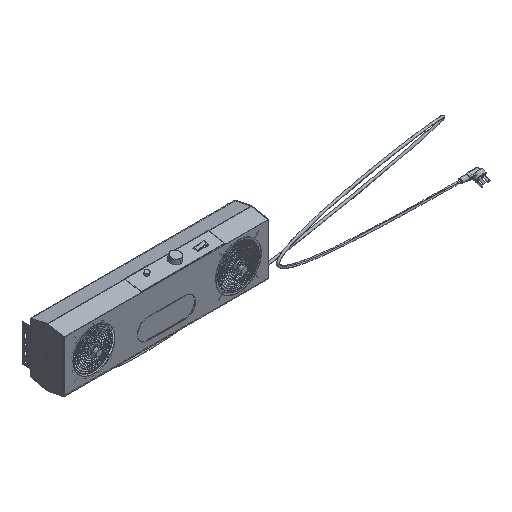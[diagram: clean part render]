
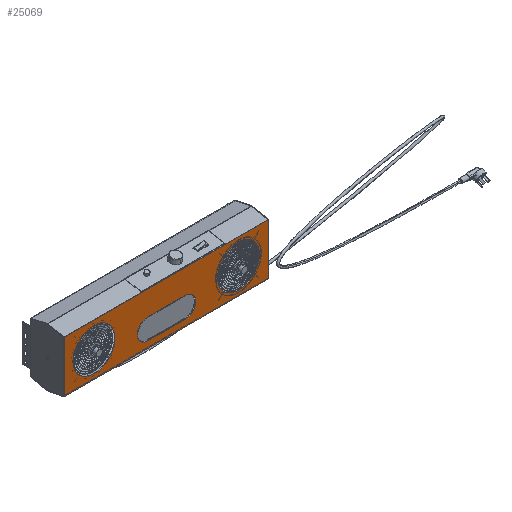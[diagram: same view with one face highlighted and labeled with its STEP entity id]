
A CAD part, isometric view. The second image highlights one B-rep face of the part: STEP entity #25069.
In plain terms, the highlighted planar face has unit normal (0, -1, 0).
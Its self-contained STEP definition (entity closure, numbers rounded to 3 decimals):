
#10 = EDGE_LOOP ( 'NONE', ( #22962, #40072, #32488, #30 ) ) ;
#30 = ORIENTED_EDGE ( 'NONE', *, *, #2239, .T. ) ;
#403 = ORIENTED_EDGE ( 'NONE', *, *, #33871, .F. ) ;
#567 = VECTOR ( 'NONE', #9184, 1000. ) ;
#695 = VERTEX_POINT ( 'NONE', #19723 ) ;
#1217 = DIRECTION ( 'NONE',  ( 0., 0., 1. ) ) ;
#2239 = EDGE_CURVE ( 'NONE', #16410, #695, #34054, .T. ) ;
#2543 = CARTESIAN_POINT ( 'NONE',  ( 246.4, -123., -64.933 ) ) ;
#2811 = ORIENTED_EDGE ( 'NONE', *, *, #12344, .F. ) ;
#3566 = CARTESIAN_POINT ( 'NONE',  ( 88.5, -123., -69.633 ) ) ;
#3828 = LINE ( 'NONE', #22988, #4284 ) ;
#3976 = FACE_OUTER_BOUND ( 'NONE', #10, .T. ) ;
#4284 = VECTOR ( 'NONE', #33185, 1000. ) ;
#4382 = VERTEX_POINT ( 'NONE', #5648 ) ;
#4910 = CARTESIAN_POINT ( 'NONE',  ( 600.3, -123., 66.867 ) ) ;
#5069 = CARTESIAN_POINT ( 'NONE',  ( 88.5, -123., 52.367 ) ) ;
#5100 = CIRCLE ( 'NONE', #6381, 61. ) ;
#5358 = CARTESIAN_POINT ( 'NONE',  ( 600.3, -123., 66.867 ) ) ;
#5648 = CARTESIAN_POINT ( 'NONE',  ( 246.4, -123., -5.333 ) ) ;
#5859 = AXIS2_PLACEMENT_3D ( 'NONE', #11636, #23801, #37383 ) ;
#6381 = AXIS2_PLACEMENT_3D ( 'NONE', #41745, #21759, #22613 ) ;
#6512 = DIRECTION ( 'NONE',  ( 0., 0., -1. ) ) ;
#7800 = PLANE ( 'NONE',  #17009 ) ;
#9184 = DIRECTION ( 'NONE',  ( 0., 0., -1. ) ) ;
#9440 = VERTEX_POINT ( 'NONE', #14292 ) ;
#9610 = CARTESIAN_POINT ( 'NONE',  ( 1.3, -123., 66.867 ) ) ;
#9660 = EDGE_CURVE ( 'NONE', #24477, #4382, #3828, .T. ) ;
#10180 = ORIENTED_EDGE ( 'NONE', *, *, #40688, .T. ) ;
#10506 = VECTOR ( 'NONE', #21276, 1000. ) ;
#10953 = DIRECTION ( 'NONE',  ( 0., -1., 0. ) ) ;
#11032 = CARTESIAN_POINT ( 'NONE',  ( 246.4, -123., -64.933 ) ) ;
#11252 = VERTEX_POINT ( 'NONE', #2543 ) ;
#11596 = EDGE_CURVE ( 'NONE', #11252, #35256, #17425, .T. ) ;
#11636 = CARTESIAN_POINT ( 'NONE',  ( 513.1, -123., -8.633 ) ) ;
#12344 = EDGE_CURVE ( 'NONE', #35256, #24477, #15299, .T. ) ;
#12563 = CIRCLE ( 'NONE', #28214, 29.8 ) ;
#12796 = LINE ( 'NONE', #9610, #33640 ) ;
#12804 = DIRECTION ( 'NONE',  ( 0., 0., 1. ) ) ;
#12822 = CARTESIAN_POINT ( 'NONE',  ( 513.1, -123., 52.367 ) ) ;
#12887 = EDGE_LOOP ( 'NONE', ( #13234, #403, #26106, #2811 ) ) ;
#13234 = ORIENTED_EDGE ( 'NONE', *, *, #11596, .F. ) ;
#13877 = CIRCLE ( 'NONE', #21328, 61. ) ;
#14292 = CARTESIAN_POINT ( 'NONE',  ( 1.3, -123., -84.133 ) ) ;
#15299 = CIRCLE ( 'NONE', #29591, 29.8 ) ;
#16035 = CIRCLE ( 'NONE', #5859, 61. ) ;
#16122 = FACE_BOUND ( 'NONE', #12887, .T. ) ;
#16266 = CARTESIAN_POINT ( 'NONE',  ( 600.3, -123., -84.133 ) ) ;
#16298 = DIRECTION ( 'NONE',  ( 0., 1., 0. ) ) ;
#16410 = VERTEX_POINT ( 'NONE', #35355 ) ;
#17009 = AXIS2_PLACEMENT_3D ( 'NONE', #39922, #29944, #1217 ) ;
#17425 = LINE ( 'NONE', #11032, #27419 ) ;
#17435 = ORIENTED_EDGE ( 'NONE', *, *, #31734, .T. ) ;
#17703 = EDGE_CURVE ( 'NONE', #21353, #21018, #34026, .T. ) ;
#18241 = VECTOR ( 'NONE', #19141, 1000. ) ;
#19141 = DIRECTION ( 'NONE',  ( -1., 0., 0. ) ) ;
#19723 = CARTESIAN_POINT ( 'NONE',  ( 1.3, -123., 66.867 ) ) ;
#20247 = VERTEX_POINT ( 'NONE', #5069 ) ;
#20660 = EDGE_LOOP ( 'NONE', ( #10180, #17435 ) ) ;
#21018 = VERTEX_POINT ( 'NONE', #12822 ) ;
#21276 = DIRECTION ( 'NONE',  ( -1., 0., 0. ) ) ;
#21328 = AXIS2_PLACEMENT_3D ( 'NONE', #35661, #16298, #6512 ) ;
#21353 = VERTEX_POINT ( 'NONE', #24709 ) ;
#21507 = VERTEX_POINT ( 'NONE', #3566 ) ;
#21669 = ORIENTED_EDGE ( 'NONE', *, *, #34722, .T. ) ;
#21759 = DIRECTION ( 'NONE',  ( 0., 1., 0. ) ) ;
#22000 = CARTESIAN_POINT ( 'NONE',  ( 356.8, -123., -64.933 ) ) ;
#22613 = DIRECTION ( 'NONE',  ( 0., 0., -1. ) ) ;
#22962 = ORIENTED_EDGE ( 'NONE', *, *, #33934, .T. ) ;
#22988 = CARTESIAN_POINT ( 'NONE',  ( 246.4, -123., -5.333 ) ) ;
#23040 = DIRECTION ( 'NONE',  ( 0., -1., 0. ) ) ;
#23529 = DIRECTION ( 'NONE',  ( 0., 0., -1. ) ) ;
#23618 = DIRECTION ( 'NONE',  ( 1., 0., 0. ) ) ;
#23772 = FACE_BOUND ( 'NONE', #20660, .T. ) ;
#23801 = DIRECTION ( 'NONE',  ( 0., 1., 0. ) ) ;
#24342 = CARTESIAN_POINT ( 'NONE',  ( 356.8, -123., -5.333 ) ) ;
#24477 = VERTEX_POINT ( 'NONE', #24342 ) ;
#24709 = CARTESIAN_POINT ( 'NONE',  ( 513.1, -123., -69.633 ) ) ;
#25069 = ADVANCED_FACE ( 'NONE', ( #16122, #25930, #23772, #3976 ), #7800, .F. ) ;
#25321 = LINE ( 'NONE', #35304, #18241 ) ;
#25374 = LINE ( 'NONE', #5358, #567 ) ;
#25930 = FACE_BOUND ( 'NONE', #40870, .T. ) ;
#26106 = ORIENTED_EDGE ( 'NONE', *, *, #9660, .F. ) ;
#27419 = VECTOR ( 'NONE', #23618, 1000. ) ;
#28214 = AXIS2_PLACEMENT_3D ( 'NONE', #41083, #10953, #23529 ) ;
#28354 = EDGE_CURVE ( 'NONE', #16410, #36745, #25374, .T. ) ;
#28860 = EDGE_CURVE ( 'NONE', #36745, #9440, #25321, .T. ) ;
#28991 = CARTESIAN_POINT ( 'NONE',  ( 513.1, -123., -8.633 ) ) ;
#29591 = AXIS2_PLACEMENT_3D ( 'NONE', #39605, #23040, #33022 ) ;
#29939 = AXIS2_PLACEMENT_3D ( 'NONE', #28991, #41938, #12804 ) ;
#29944 = DIRECTION ( 'NONE',  ( 0., 1., 0. ) ) ;
#31518 = DIRECTION ( 'NONE',  ( 0., 0., -1. ) ) ;
#31734 = EDGE_CURVE ( 'NONE', #21507, #20247, #13877, .T. ) ;
#32488 = ORIENTED_EDGE ( 'NONE', *, *, #28354, .F. ) ;
#32887 = ORIENTED_EDGE ( 'NONE', *, *, #17703, .T. ) ;
#33022 = DIRECTION ( 'NONE',  ( 0., 0., -1. ) ) ;
#33185 = DIRECTION ( 'NONE',  ( -1., 0., 0. ) ) ;
#33640 = VECTOR ( 'NONE', #31518, 1000. ) ;
#33871 = EDGE_CURVE ( 'NONE', #4382, #11252, #12563, .T. ) ;
#33934 = EDGE_CURVE ( 'NONE', #695, #9440, #12796, .T. ) ;
#34026 = CIRCLE ( 'NONE', #29939, 61. ) ;
#34054 = LINE ( 'NONE', #4910, #10506 ) ;
#34722 = EDGE_CURVE ( 'NONE', #21018, #21353, #16035, .T. ) ;
#35256 = VERTEX_POINT ( 'NONE', #22000 ) ;
#35304 = CARTESIAN_POINT ( 'NONE',  ( 600.3, -123., -84.133 ) ) ;
#35355 = CARTESIAN_POINT ( 'NONE',  ( 600.3, -123., 66.867 ) ) ;
#35661 = CARTESIAN_POINT ( 'NONE',  ( 88.5, -123., -8.633 ) ) ;
#36745 = VERTEX_POINT ( 'NONE', #16266 ) ;
#37383 = DIRECTION ( 'NONE',  ( 0., 0., 1. ) ) ;
#39605 = CARTESIAN_POINT ( 'NONE',  ( 356.8, -123., -35.133 ) ) ;
#39922 = CARTESIAN_POINT ( 'NONE',  ( 600.3, -123., 66.867 ) ) ;
#40072 = ORIENTED_EDGE ( 'NONE', *, *, #28860, .F. ) ;
#40688 = EDGE_CURVE ( 'NONE', #20247, #21507, #5100, .T. ) ;
#40870 = EDGE_LOOP ( 'NONE', ( #21669, #32887 ) ) ;
#41083 = CARTESIAN_POINT ( 'NONE',  ( 246.4, -123., -35.133 ) ) ;
#41745 = CARTESIAN_POINT ( 'NONE',  ( 88.5, -123., -8.633 ) ) ;
#41938 = DIRECTION ( 'NONE',  ( 0., 1., 0. ) ) ;
